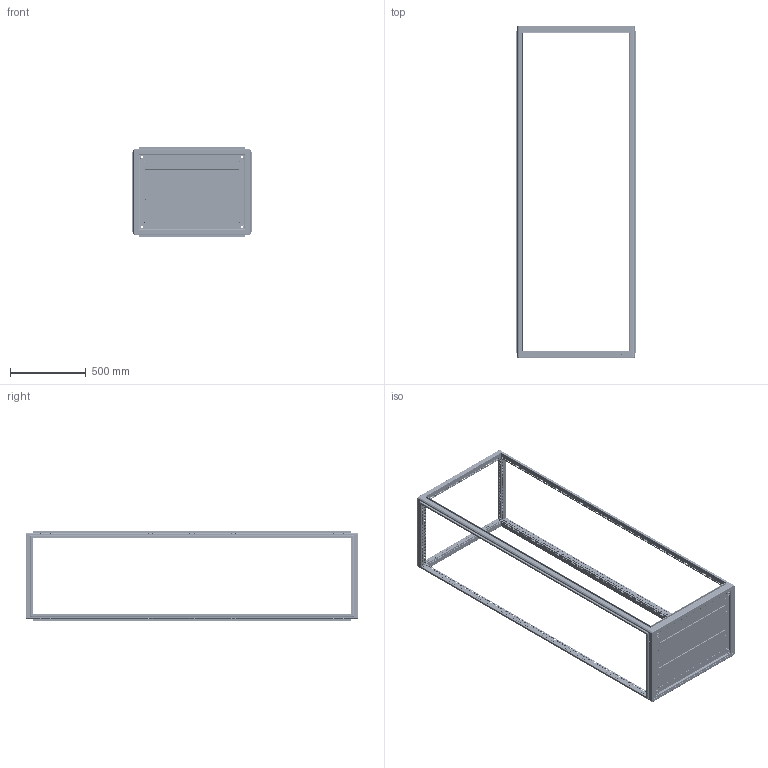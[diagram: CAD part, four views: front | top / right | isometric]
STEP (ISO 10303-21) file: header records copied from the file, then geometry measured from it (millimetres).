
FILE_DESCRIPTION(('STEP AP242'), '1');
FILE_NAME('ÊÑÊ.PRO.S.220.80.60 Êàðêàñ_ñåêöèîíèðîâàíèå', '', ('UNSPECIFIED'), ('UNSPECIFIED'), 'C3D Converter', 'C3D Toolkit', '');
FILE_SCHEMA(('AP242_MANAGED_MODEL_BASED_3D_ENGINEERING_MIM_LF { 1 0 10303 442 1 1 4 }'));
Length unit declared in the file: millimetre
Products named in the file (11): КСК.PRO.S.220.80.60; КСК.PRO.80.60; КСК.PRO.220; КСК.PRO.S.220; 2007.80.75; 2007.80.175; 2008.80.200
Assembly tree (19 placements, depth 2):
  КСК.PRO.S.220.80.60
    КСК.PRO.80.60
    КСК.PRO.220
    КСК.PRO.80.60
    КСК.PRO.220
    КСК.PRO.S.220
    КСК.PRO.S.220
    2007.80.75
    2007.80.175
    2008.80.200
    (unnamed)  x10
Bounding box: 797 x 2197 x 597 mm (x, y, z)
Volume: 3861160.5 mm3; surface area: 5071632.5 mm2
Topology: 19 solids, 19 shells, 9399 faces, 26659 edges, 17515 vertices
Faces by surface type: plane 6683, cylinder 2244, cone 352, bspline 60, sphere 32, torus 28
Full cylindrical faces by diameter (mm): 3.242 x56, 4.134 x180, 4.5 x1450, 4.8 x10, 6 x56, 7 x180, 10.106 x4, 13.835 x4, 14 x4, 21.545 x4
Entity records: 321081 total; most frequent: CARTESIAN_POINT 52620, ORIENTED_EDGE 47430, DIRECTION 46260, EDGE_CURVE 23715, LINE 19134, VECTOR 19134, EDGE_LOOP 17492, VERTEX_POINT 16993
